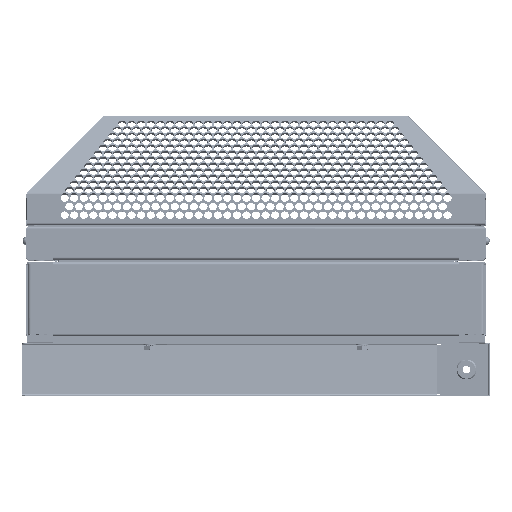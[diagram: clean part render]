
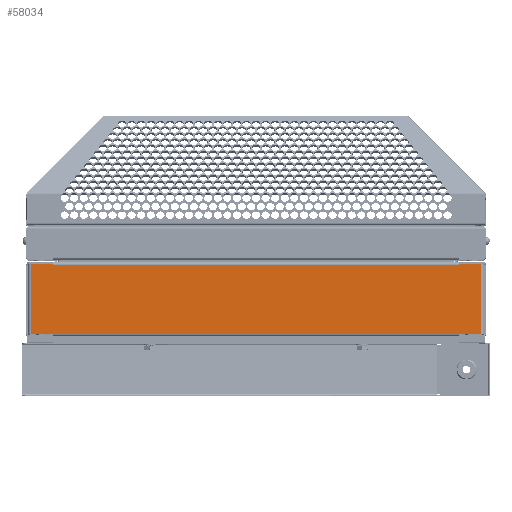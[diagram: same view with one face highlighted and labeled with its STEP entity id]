
A CAD part, top view. The second image highlights one B-rep face of the part: STEP entity #58034.
In plain terms, the highlighted planar face has unit normal (0, 0, 1) as drawn and (-1, 0, 0) by its records, which use the part's own axes.
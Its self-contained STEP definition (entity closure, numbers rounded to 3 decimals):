
#56790=DIRECTION('',(0.,0.,1.));
#56791=VECTOR('',#56790,382.);
#56792=CARTESIAN_POINT('',(-25.,-32.5,-191.));
#56793=LINE('',#56792,#56791);
#56862=DIRECTION('',(0.,0.866,-0.5));
#56863=VECTOR('',#56862,0.693);
#56864=CARTESIAN_POINT('',(-25.,-33.1,191.346));
#56865=LINE('',#56864,#56863);
#56866=DIRECTION('',(0.,-0.866,
-0.5));
#56867=VECTOR('',#56866,0.693);
#56868=CARTESIAN_POINT('',(-25.,-32.5,-191.));
#56869=LINE('',#56868,#56867);
#56870=DIRECTION('',(0.,-0.866,0.5));
#56871=VECTOR('',#56870,0.693);
#56872=CARTESIAN_POINT('',(-25.,33.1,-191.346));
#56873=LINE('',#56872,#56871);
#56874=DIRECTION('',(0.,0.866,0.5));
#56875=VECTOR('',#56874,0.693);
#56876=CARTESIAN_POINT('',(-25.,32.5,191.));
#56877=LINE('',#56876,#56875);
#56882=DIRECTION('',(0.,0.,1.));
#56883=VECTOR('',#56882,20.654);
#56884=CARTESIAN_POINT('',(-25.,-33.1,-212.));
#56885=LINE('',#56884,#56883);
#57030=DIRECTION('',(0.,0.,-1.));
#57031=VECTOR('',#57030,20.654);
#57032=CARTESIAN_POINT('',(-25.,33.1,-191.346));
#57033=LINE('',#57032,#57031);
#57052=DIRECTION('',(0.,0.,-1.));
#57053=VECTOR('',#57052,382.);
#57054=CARTESIAN_POINT('',(-25.,32.5,191.));
#57055=LINE('',#57054,#57053);
#57206=DIRECTION('',(0.,0.,-1.));
#57207=VECTOR('',#57206,20.654);
#57208=CARTESIAN_POINT('',(-25.,33.1,212.));
#57209=LINE('',#57208,#57207);
#57354=DIRECTION('',(0.,0.,1.));
#57355=VECTOR('',#57354,20.654);
#57356=CARTESIAN_POINT('',(-25.,-33.1,191.346));
#57357=LINE('',#57356,#57355);
#57371=DIRECTION('',(0.,1.,0.));
#57372=VECTOR('',#57371,66.2);
#57373=CARTESIAN_POINT('',(-25.,-33.1,212.));
#57374=LINE('',#57373,#57372);
#57400=DIRECTION('',(0.,-1.,0.));
#57401=VECTOR('',#57400,66.2);
#57402=CARTESIAN_POINT('',(-25.,33.1,-212.));
#57403=LINE('',#57402,#57401);
#57586=CARTESIAN_POINT('',(-25.,-32.5,191.));
#57587=VERTEX_POINT('',#57586);
#57592=CARTESIAN_POINT('',(-25.,-32.5,-191.));
#57593=VERTEX_POINT('',#57592);
#57618=CARTESIAN_POINT('',(-25.,-33.1,191.346));
#57619=VERTEX_POINT('',#57618);
#57620=CARTESIAN_POINT('',(-25.,-33.1,
-191.346));
#57621=VERTEX_POINT('',#57620);
#57622=CARTESIAN_POINT('',(-25.,-33.1,-212.));
#57623=VERTEX_POINT('',#57622);
#57624=CARTESIAN_POINT('',(-25.,33.1,-212.));
#57625=VERTEX_POINT('',#57624);
#57626=CARTESIAN_POINT('',(-25.,33.1,-191.346));
#57627=VERTEX_POINT('',#57626);
#57628=CARTESIAN_POINT('',(-25.,32.5,-191.));
#57629=VERTEX_POINT('',#57628);
#57630=CARTESIAN_POINT('',(-25.,32.5,191.));
#57631=VERTEX_POINT('',#57630);
#57632=CARTESIAN_POINT('',(-25.,33.1,
191.346));
#57633=VERTEX_POINT('',#57632);
#57634=CARTESIAN_POINT('',(-25.,33.1,212.));
#57635=VERTEX_POINT('',#57634);
#57636=CARTESIAN_POINT('',(-25.,-33.1,212.));
#57637=VERTEX_POINT('',#57636);
#58005=CARTESIAN_POINT('',(-25.,35.,-212.));
#58006=DIRECTION('',(-1.,0.,0.));
#58007=DIRECTION('',(0.,-1.,0.));
#58008=AXIS2_PLACEMENT_3D('',#58005,#58006,#58007);
#58009=PLANE('',#58008);
#58010=ORIENTED_EDGE('',*,*,#57996,.T.);
#58011=ORIENTED_EDGE('',*,*,#57911,.F.);
#58013=ORIENTED_EDGE('',*,*,#58012,.T.);
#58015=ORIENTED_EDGE('',*,*,#58014,.F.);
#58017=ORIENTED_EDGE('',*,*,#58016,.F.);
#58019=ORIENTED_EDGE('',*,*,#58018,.F.);
#58021=ORIENTED_EDGE('',*,*,#58020,.T.);
#58023=ORIENTED_EDGE('',*,*,#58022,.F.);
#58025=ORIENTED_EDGE('',*,*,#58024,.T.);
#58027=ORIENTED_EDGE('',*,*,#58026,.F.);
#58029=ORIENTED_EDGE('',*,*,#58028,.F.);
#58031=ORIENTED_EDGE('',*,*,#58030,.F.);
#58032=EDGE_LOOP('',(#58010,#58011,#58013,#58015,#58017,#58019,#58021,#58023,
#58025,#58027,#58029,#58031));
#58033=FACE_OUTER_BOUND('',#58032,.F.);
#58034=ADVANCED_FACE('',(#58033),#58009,.T.);
#57911=EDGE_CURVE('',#57593,#57587,#56793,.T.);
#57996=EDGE_CURVE('',#57619,#57587,#56865,.T.);
#58012=EDGE_CURVE('',#57593,#57621,#56869,.T.);
#58014=EDGE_CURVE('',#57623,#57621,#56885,.T.);
#58016=EDGE_CURVE('',#57625,#57623,#57403,.T.);
#58018=EDGE_CURVE('',#57627,#57625,#57033,.T.);
#58020=EDGE_CURVE('',#57627,#57629,#56873,.T.);
#58022=EDGE_CURVE('',#57631,#57629,#57055,.T.);
#58024=EDGE_CURVE('',#57631,#57633,#56877,.T.);
#58026=EDGE_CURVE('',#57635,#57633,#57209,.T.);
#58028=EDGE_CURVE('',#57637,#57635,#57374,.T.);
#58030=EDGE_CURVE('',#57619,#57637,#57357,.T.);
